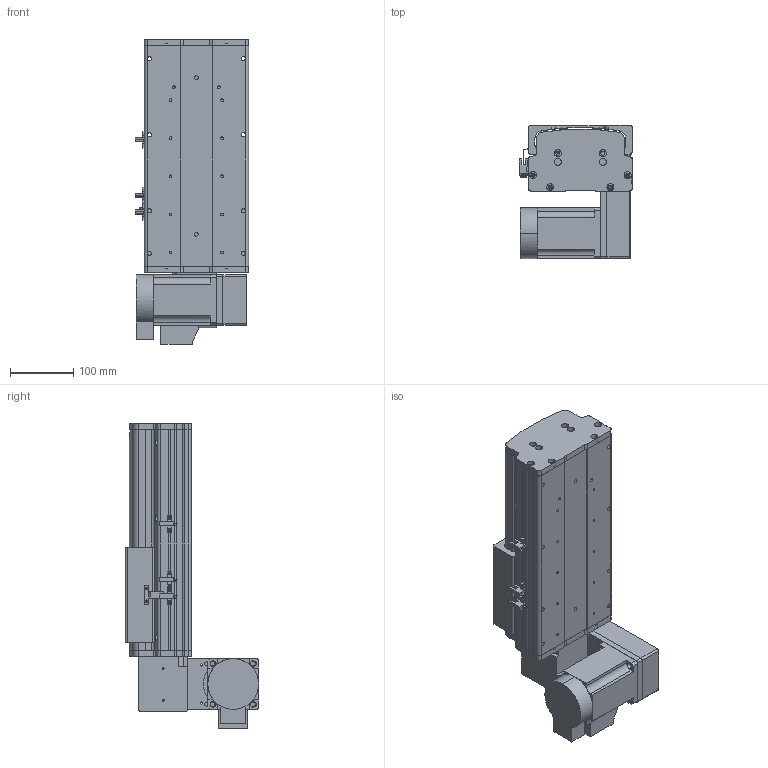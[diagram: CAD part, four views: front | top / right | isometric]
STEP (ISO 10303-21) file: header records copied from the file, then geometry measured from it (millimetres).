
FILE_DESCRIPTION (( 'STEP AP214' ), '1' );
FILE_NAME ('KSD165B-S100-MRD-CM.STEP', '2017-10-16T09:11:21', ( '微软用户' ), ( '微软中国' ), 'SwSTEP 2.0', 'SolidWorks 2014', '' );
FILE_SCHEMA (( 'AUTOMOTIVE_DESIGN' ));
Length unit declared in the file: millimetre
Products named in the file (17): KSD165模组-后端板1-同步带; KSD165模组-同步带滑动座-最新版; KSD165B-S100-MRD-CM; 130宽模组马达安装板连板上下折丝杆同步带; 130宽模组保护罩上下左右折-同步带; HTPA26S5M250-A-H8 750W萇儂蚚; HTPA26S5M250-A-H8 400W萇儂蚚 ; KSD165模组-同步带防尘盖1-100行程-最新版; KSD165模组同步带底板-100行程-最新; 拸秶雄ん750W侜督萇儂; 165宽马达安装板同步带右; U倰嫖萇假蚾璃; U倰嫖萇EEㄜSX672; 覜茼え68遵圉猾敕; KSD165模组-同步带-防撞垫2; KSD165模组同步带-防撞垫1; KSD165耀郪-ヶ傷啣1-肮祭湍
Assembly tree (20 placements, depth 2):
  KSD165B-S100-MRD-CM
    KSD165模组-同步带滑动座-最新版
    KSD165模组-后端板1-同步带
    KSD165耀郪-ヶ傷啣1-肮祭湍
    KSD165模组同步带-防撞垫1
    KSD165模组-同步带-防撞垫2
    覜茼え68遵圉猾敕
    U倰嫖萇EEㄜSX672  x3
    U倰嫖萇假蚾璃  x3
    165宽马达安装板同步带右
    拸秶雄ん750W侜督萇儂
    KSD165模组同步带底板-100行程-最新
    KSD165模组-同步带防尘盖1-100行程-最新版
    HTPA26S5M250-A-H8 400W萇儂蚚 
    HTPA26S5M250-A-H8 750W萇儂蚚
    130宽模组保护罩上下左右折-同步带
    130宽模组马达安装板连板上下折丝杆同步带
Bounding box: 178.7 x 210 x 480.5 mm (x, y, z)
Volume: 3852232.8 mm3; surface area: 885694.2 mm2
Topology: 21 solids, 21 shells, 1845 faces, 5190 edges, 3384 vertices
Faces by surface type: cylinder 1159, plane 574, cone 112
Entity records: 58780 total; most frequent: CARTESIAN_POINT 12064, DIRECTION 9754, ORIENTED_EDGE 9040, EDGE_CURVE 4520, AXIS2_PLACEMENT_3D 3808, VERTEX_POINT 2976, CIRCLE 2160, VECTOR 2138
